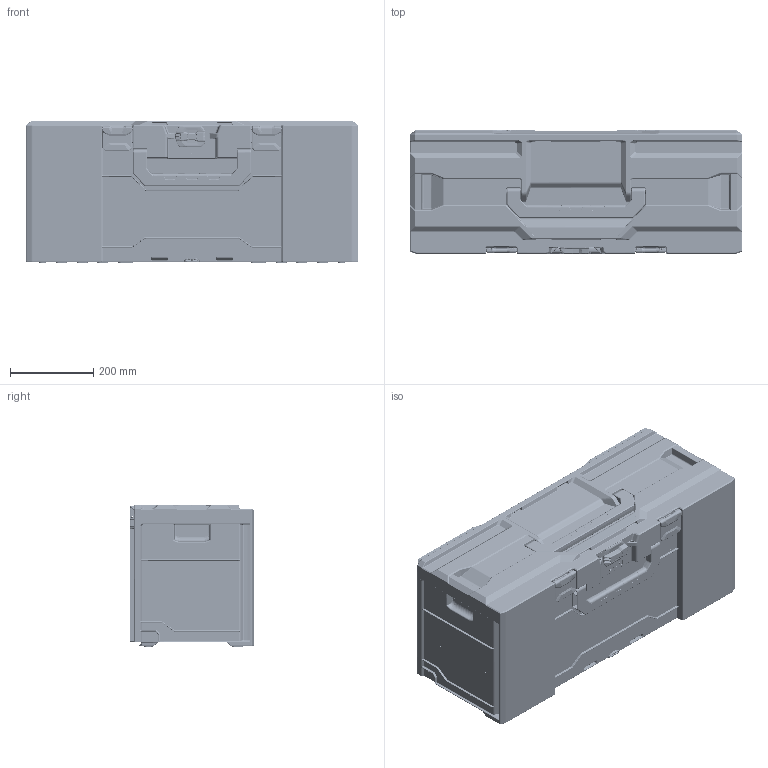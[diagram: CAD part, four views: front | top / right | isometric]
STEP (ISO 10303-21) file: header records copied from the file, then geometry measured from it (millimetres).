
FILE_DESCRIPTION(/* description */ (''),/* implementation_level */ '2;1');
FILE_NAME(/* name */ '251103_10101076_000-metaBOX 340 XXL Assy.stp',/* time_stamp */ '2025-11-03T15:23:22+01:00',/* author */ (''),/* organization */ (''),/* preprocessor_version */ 'ST-DEVELOPER v20',/* originating_system */ 'SIEMENS PLM Software NX2406.9140',/* authorisation */ '');
FILE_SCHEMA (('AUTOMOTIVE_DESIGN { 1 0 10303 214 3 1 1 1 }'));
Products named in the file (1): 10101076_objects
Bounding box: 796 x 296.2 x 340 mm (x, y, z)
Volume: 4284042.8 mm3; surface area: 3037956.9 mm2
Topology: 9 solids, 9 shells, 17914 faces, 44000 edges, 25480 vertices
Faces by surface type: bspline 6888, cylinder 6064, plane 3869, sphere 449, cone 347, torus 271, extrusion 26
Full cylindrical faces by diameter (mm): 4 x16, 9.1 x2
Entity records: 752864 total; most frequent: CARTESIAN_POINT 295634, ORIENTED_EDGE 86068, DIRECTION 72054, EDGE_CURVE 43034, AXIS2_PLACEMENT_3D 28223, VERTEX_POINT 25415, EDGE_LOOP 18345, ADVANCED_FACE 17911
